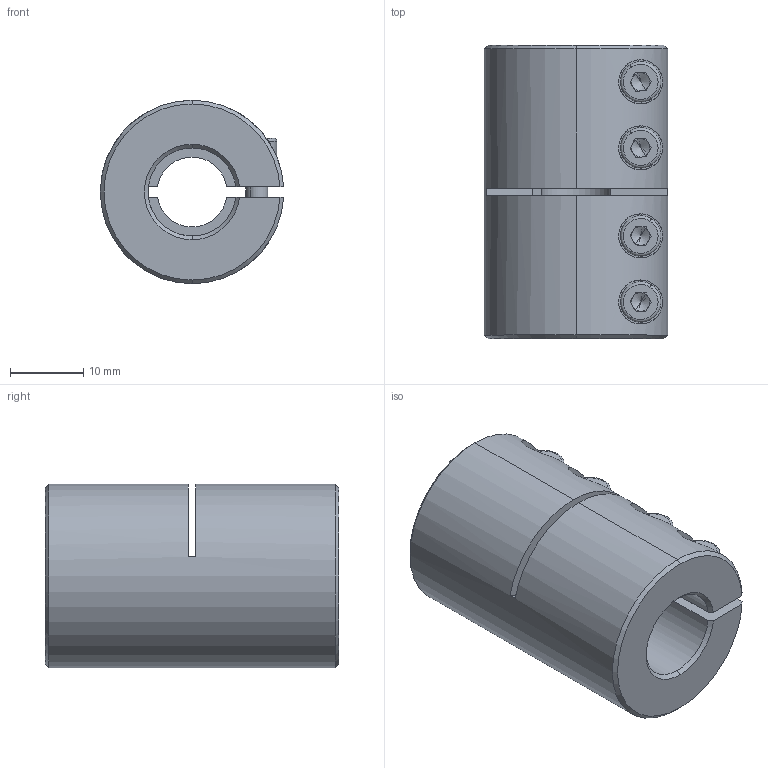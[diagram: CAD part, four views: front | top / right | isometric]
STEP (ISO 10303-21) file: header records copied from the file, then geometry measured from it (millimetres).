
FILE_DESCRIPTION (( 'STEP AP214' ), '1' );
FILE_NAME ('LL-B-D25L40-9.525-12½¨Ä£.STEP', '2022-07-21T05:19:23', ( '' ), ( '' ), 'SwSTEP 2.0', 'SolidWorks 2022', '' );
FILE_SCHEMA (( 'AUTOMOTIVE_DESIGN' ));
Length unit declared in the file: millimetre
Products named in the file (1): LL-B-D25L40-9.525-12膘耀
Bounding box: 24.98 x 40 x 25 mm (x, y, z)
Volume: 15014 mm3; surface area: 7158 mm2
Topology: 1 solids, 1 shells, 178 faces, 454 edges, 286 vertices
Faces by surface type: plane 85, cylinder 65, cone 20, torus 8
Entity records: 5830 total; most frequent: CARTESIAN_POINT 1438, DIRECTION 944, ORIENTED_EDGE 892, EDGE_CURVE 446, AXIS2_PLACEMENT_3D 364, VERTEX_POINT 286, VECTOR 216, LINE 216
